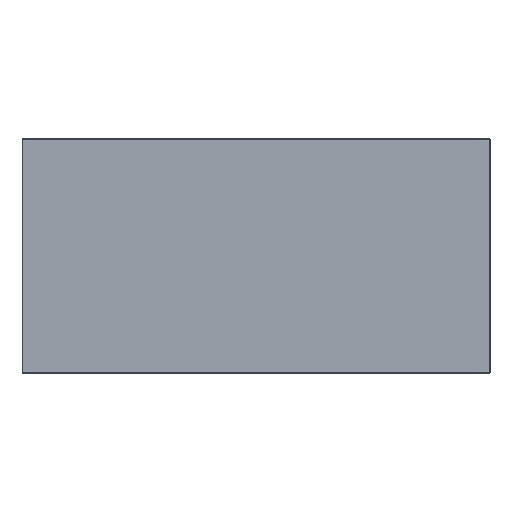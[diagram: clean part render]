
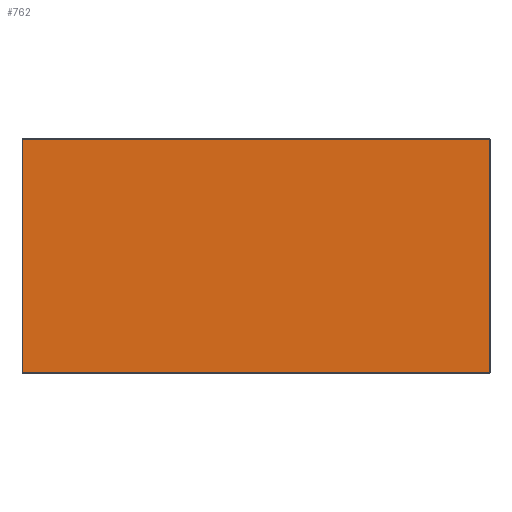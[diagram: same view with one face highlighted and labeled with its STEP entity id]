
A CAD part, top view. The second image highlights one B-rep face of the part: STEP entity #762.
In plain terms, the highlighted planar face has unit normal (0, 0, 1).
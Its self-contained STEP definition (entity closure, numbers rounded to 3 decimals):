
#762=ADVANCED_FACE('',(#1116),#5412,.T.);
#1116=FACE_OUTER_BOUND('',#1470,.T.);
#1470=EDGE_LOOP('',(#1887,#1888,#1889,#1890));
#1887=ORIENTED_EDGE('',*,*,#3591,.T.);
#1888=ORIENTED_EDGE('',*,*,#3594,.T.);
#1889=ORIENTED_EDGE('',*,*,#3592,.T.);
#1890=ORIENTED_EDGE('',*,*,#3593,.T.);
#3591=EDGE_CURVE('',#4859,#4860,#4443,.T.);
#3592=EDGE_CURVE('',#4861,#4862,#4444,.T.);
#3593=EDGE_CURVE('',#4862,#4859,#4445,.T.);
#3594=EDGE_CURVE('',#4860,#4861,#4446,.T.);
#4443=B_SPLINE_CURVE_WITH_KNOTS('',1,(#5985,#5986),.UNSPECIFIED.,.F.,.F.,
(2,2),(1.,1199.),.UNSPECIFIED.);
#4444=B_SPLINE_CURVE_WITH_KNOTS('',1,(#5987,#5988),.UNSPECIFIED.,.F.,.F.,
(2,2),(1.,1199.),.UNSPECIFIED.);
#4445=B_SPLINE_CURVE_WITH_KNOTS('',1,(#5989,#5990),.UNSPECIFIED.,.F.,.F.,
(2,2),(1.,2399.),.UNSPECIFIED.);
#4446=B_SPLINE_CURVE_WITH_KNOTS('',1,(#5991,#5992),.UNSPECIFIED.,.F.,.F.,
(2,2),(1.,2399.),.UNSPECIFIED.);
#4859=VERTEX_POINT('',#5941);
#4860=VERTEX_POINT('',#5942);
#4861=VERTEX_POINT('',#5943);
#4862=VERTEX_POINT('',#5944);
#5412=PLANE('',#5578);
#5578=AXIS2_PLACEMENT_3D('',#5876,#5727,$);
#5727=DIRECTION('',(0.,0.,1.));
#5876=CARTESIAN_POINT('',(-1200.,-600.,720.));
#5941=CARTESIAN_POINT('',(1199.,-599.,720.));
#5942=CARTESIAN_POINT('',(1199.,599.,720.));
#5943=CARTESIAN_POINT('',(-1199.,599.,720.));
#5944=CARTESIAN_POINT('',(-1199.,-599.,720.));
#5985=CARTESIAN_POINT('',(1199.,-599.,720.));
#5986=CARTESIAN_POINT('',(1199.,599.,720.));
#5987=CARTESIAN_POINT('',(-1199.,599.,720.));
#5988=CARTESIAN_POINT('',(-1199.,-599.,720.));
#5989=CARTESIAN_POINT('',(-1199.,-599.,720.));
#5990=CARTESIAN_POINT('',(1199.,-599.,720.));
#5991=CARTESIAN_POINT('',(1199.,599.,720.));
#5992=CARTESIAN_POINT('',(-1199.,599.,720.));
